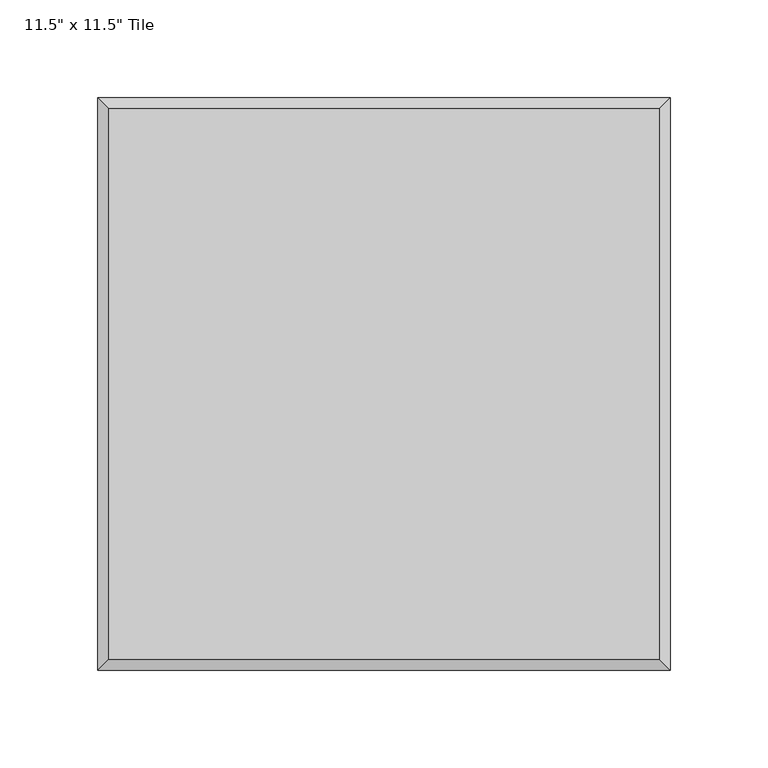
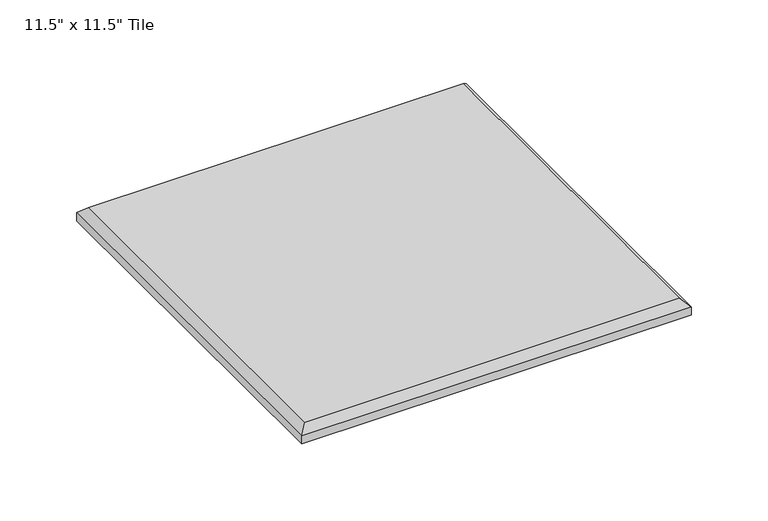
"""IFC4 building model written with IfcOpenShell, lengths in millimetres: proxy geometry."""

from ifc_helpers import new_model, si_unit, origin, place, context, project, spatial, faceted_brep, source, transform, mapped, element, save


def proxy_3ab9ab72(model_context):
    return source(origin(), model_context, "Body", "Brep", [
        faceted_brep([(699.3445313, 140.5445313, 12.0054687), (418.2554688, 140.5445313, 12.0054687), (418.2554688, -140.5445312, 12.0054687), (699.3445313, -140.5445312, 12.0054687), (704.85, -146.05, 0.0), (412.75, -146.05, 0.0), (412.75, 146.05, 0.0), (704.85, 146.05, 0.0), (704.85, -146.05, 6.5), (412.75, -146.05, 6.5), (412.75, 146.05, 6.5), (704.85, 146.05, 6.5)], [[[0, 1, 2, 3]], [[4, 5, 6, 7]], [[4, 8, 9, 5]], [[5, 9, 10, 6]], [[6, 10, 11, 7]], [[7, 11, 8, 4]], [[8, 11, 0, 3]], [[3, 2, 9, 8]], [[2, 1, 10, 9]], [[11, 10, 1, 0]]]),
    ])


if __name__ == "__main__":
    model = new_model("IFC4")
    model_context = context("Model", 3, world=origin())
    ifc_project = project(units=[si_unit("LENGTHUNIT", "METRE", prefix="MILLI")], contexts=[model_context])
    site = spatial("IfcSite", under=ifc_project)
    building = spatial("IfcBuilding", under=site)
    placement = place(None, origin())
    proxy_shape = proxy_3ab9ab72(model_context)
    element("IfcBuildingElementProxy", 1, Name="Wall-Panel-Kirei-EchoPanel-Echotile_Sync : 11.5\" x 11.5\" Tile", ObjectType="Wall-Panel-Kirei-EchoPanel-Echotile_Sync : 11.5\" x 11.5\" Tile", at=placement, inside=building, context=model_context, shape_type="MappedRepresentation", body=[
        mapped(proxy_shape, transform((0.0, 0.0, 0.0), x_axis=(1.0, 0.0, 0.0), y_axis=(0.0, 1.0, 0.0), z_axis=(0.0, 0.0, 1.0))),
    ])
    save(model, "model.ifc")
